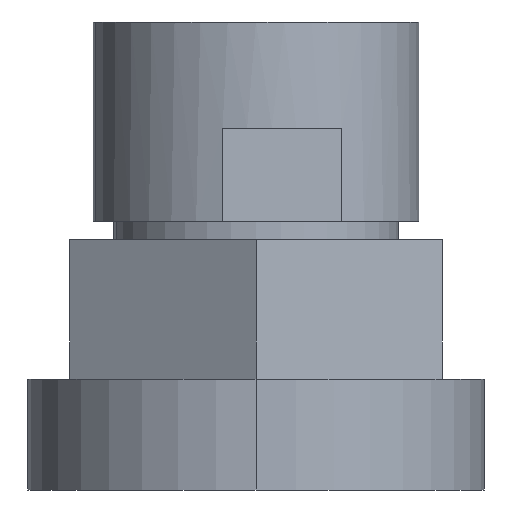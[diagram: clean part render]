
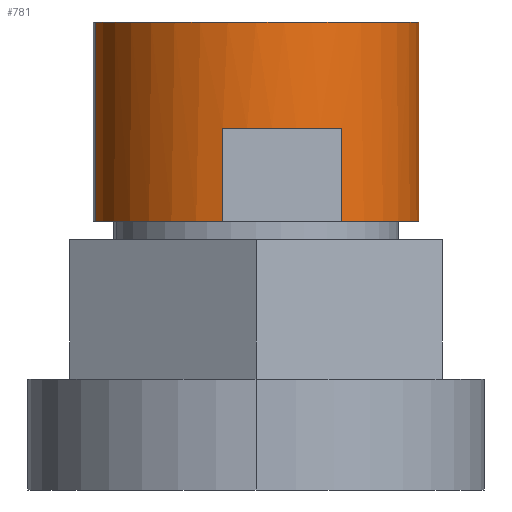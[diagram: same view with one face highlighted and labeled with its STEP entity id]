
A CAD part, left-side view. The second image highlights one B-rep face of the part: STEP entity #781.
In plain terms, the highlighted cylindrical face has radius 22.225 mm (diameter 44.45 mm), a partial arc.
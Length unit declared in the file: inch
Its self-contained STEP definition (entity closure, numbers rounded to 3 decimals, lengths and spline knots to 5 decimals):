
#6 = ORIENTED_EDGE ( 'NONE', *, *, #210, .F. ) ;
#12 = ORIENTED_EDGE ( 'NONE', *, *, #196, .T. ) ;
#37 = ORIENTED_EDGE ( 'NONE', *, *, #220, .F. ) ;
#44 = ORIENTED_EDGE ( 'NONE', *, *, #731, .F. ) ;
#51 = ORIENTED_EDGE ( 'NONE', *, *, #729, .T. ) ;
#116 = LINE ( 'NONE', #251, #140 ) ;
#140 = VECTOR ( 'NONE', #236, 39.37008 ) ;
#141 = CIRCLE ( 'NONE', #744, 0.875 ) ;
#144 = ORIENTED_EDGE ( 'NONE', *, *, #733, .F. ) ;
#147 = ORIENTED_EDGE ( 'NONE', *, *, #712, .T. ) ;
#148 = LINE ( 'NONE', #263, #157 ) ;
#157 = VECTOR ( 'NONE', #252, 39.37008 ) ;
#174 = ORIENTED_EDGE ( 'NONE', *, *, #718, .F. ) ;
#181 = EDGE_LOOP ( 'NONE', ( #174, #147, #6, #37, #44, #51, #12, #144 ) ) ;
#182 = CIRCLE ( 'NONE', #747, 0.875 ) ;
#196 = EDGE_CURVE ( 'NONE', #505, #537, #148, .T. ) ;
#210 = EDGE_CURVE ( 'NONE', #491, #511, #116, .T. ) ;
#220 = EDGE_CURVE ( 'NONE', #503, #491, #141, .T. ) ;
#236 = DIRECTION ( 'NONE',  ( 0., 0., -1. ) ) ;
#251 = CARTESIAN_POINT ( 'NONE',  ( -4.69233, -0.73847, 1.843 ) ) ;
#252 = DIRECTION ( 'NONE',  ( 0., 0., 1. ) ) ;
#263 = CARTESIAN_POINT ( 'NONE',  ( -3.68452, -1.77958, 1.843 ) ) ;
#274 = DIRECTION ( 'NONE',  ( 0.173, -0.985, 0. ) ) ;
#278 = CARTESIAN_POINT ( 'NONE',  ( -3.8359, -0.91777, 1.843 ) ) ;
#279 = CARTESIAN_POINT ( 'NONE',  ( -3.98727, -0.05597, 1.843 ) ) ;
#281 = DIRECTION ( 'NONE',  ( 0., 0., 1. ) ) ;
#285 = DIRECTION ( 'NONE',  ( -0.173, 0.985, 0. ) ) ;
#286 = DIRECTION ( 'NONE',  ( 0., 0., 1. ) ) ;
#287 = CARTESIAN_POINT ( 'NONE',  ( -3.8359, -0.91777, 0.773 ) ) ;
#290 = DIRECTION ( 'NONE',  ( 0., 0., 1. ) ) ;
#293 = CARTESIAN_POINT ( 'NONE',  ( -4.57996, -1.3782, 1.843 ) ) ;
#305 = CARTESIAN_POINT ( 'NONE',  ( -3.98727, -0.05597, 1.843 ) ) ;
#325 = CARTESIAN_POINT ( 'NONE',  ( -3.68452, -1.77958, 0.773 ) ) ;
#328 = CARTESIAN_POINT ( 'NONE',  ( -4.57996, -1.3782, 0.773 ) ) ;
#330 = CARTESIAN_POINT ( 'NONE',  ( -3.8359, -0.91777, 0.773 ) ) ;
#331 = DIRECTION ( 'NONE',  ( 0.173, -0.985, 0. ) ) ;
#353 = DIRECTION ( 'NONE',  ( 0., 0., 1. ) ) ;
#354 = DIRECTION ( 'NONE',  ( 0., 0., -1. ) ) ;
#362 = CARTESIAN_POINT ( 'NONE',  ( -3.98727, -0.05597, 0.773 ) ) ;
#365 = CARTESIAN_POINT ( 'NONE',  ( -3.68452, -1.77958, 1.843 ) ) ;
#368 = CARTESIAN_POINT ( 'NONE',  ( -3.8359, -0.91777, 1.273 ) ) ;
#370 = CARTESIAN_POINT ( 'NONE',  ( -4.69233, -0.73847, 1.273 ) ) ;
#373 = CARTESIAN_POINT ( 'NONE',  ( -4.57996, -1.3782, 1.273 ) ) ;
#376 = CARTESIAN_POINT ( 'NONE',  ( -4.69233, -0.73847, 0.773 ) ) ;
#377 = DIRECTION ( 'NONE',  ( 0.173, -0.985, 0. ) ) ;
#386 = DIRECTION ( 'NONE',  ( 0., 0., 1. ) ) ;
#395 = LINE ( 'NONE', #293, #435 ) ;
#400 = VECTOR ( 'NONE', #353, 39.37008 ) ;
#409 = CIRCLE ( 'NONE', #663, 0.875 ) ;
#435 = VECTOR ( 'NONE', #281, 39.37008 ) ;
#470 = CYLINDRICAL_SURFACE ( 'NONE', #695, 0.875 ) ;
#485 = FACE_OUTER_BOUND ( 'NONE', #181, .T. ) ;
#486 = LINE ( 'NONE', #305, #400 ) ;
#488 = CIRCLE ( 'NONE', #665, 0.875 ) ;
#491 = VERTEX_POINT ( 'NONE', #370 ) ;
#503 = VERTEX_POINT ( 'NONE', #373 ) ;
#505 = VERTEX_POINT ( 'NONE', #325 ) ;
#510 = VERTEX_POINT ( 'NONE', #328 ) ;
#511 = VERTEX_POINT ( 'NONE', #376 ) ;
#521 = VERTEX_POINT ( 'NONE', #279 ) ;
#522 = VERTEX_POINT ( 'NONE', #362 ) ;
#537 = VERTEX_POINT ( 'NONE', #365 ) ;
#571 = DIRECTION ( 'NONE',  ( 0.173, -0.985, 0. ) ) ;
#582 = DIRECTION ( 'NONE',  ( 0., 0., 1. ) ) ;
#640 = CARTESIAN_POINT ( 'NONE',  ( -3.8359, -0.91777, 1.843 ) ) ;
#663 = AXIS2_PLACEMENT_3D ( 'NONE', #287, #290, #377 ) ;
#665 = AXIS2_PLACEMENT_3D ( 'NONE', #278, #286, #274 ) ;
#695 = AXIS2_PLACEMENT_3D ( 'NONE', #640, #582, #571 ) ;
#712 = EDGE_CURVE ( 'NONE', #522, #511, #182, .T. ) ;
#718 = EDGE_CURVE ( 'NONE', #522, #521, #486, .T. ) ;
#729 = EDGE_CURVE ( 'NONE', #510, #505, #409, .T. ) ;
#731 = EDGE_CURVE ( 'NONE', #510, #503, #395, .T. ) ;
#733 = EDGE_CURVE ( 'NONE', #521, #537, #488, .T. ) ;
#744 = AXIS2_PLACEMENT_3D ( 'NONE', #368, #354, #285 ) ;
#747 = AXIS2_PLACEMENT_3D ( 'NONE', #330, #386, #331 ) ;
#781 = ADVANCED_FACE ( 'NONE', ( #485 ), #470, .T. ) ;
